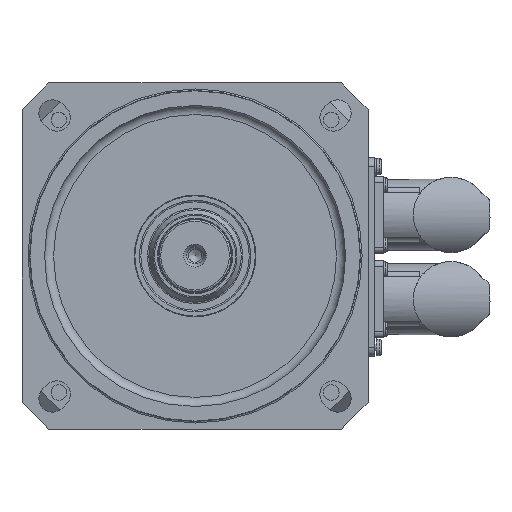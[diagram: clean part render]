
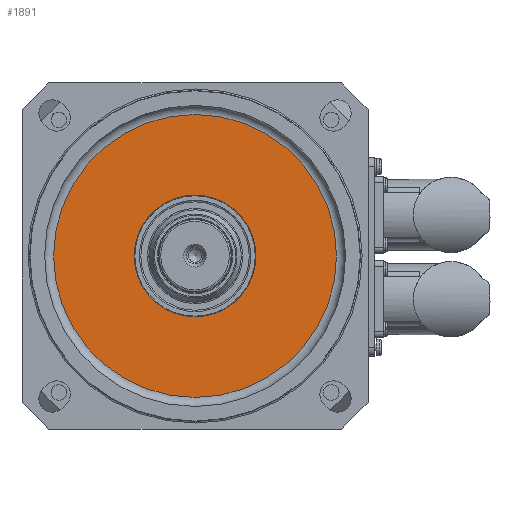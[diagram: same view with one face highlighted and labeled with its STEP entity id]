
A CAD part, top view. The second image highlights one B-rep face of the part: STEP entity #1891.
In plain terms, the highlighted planar face has unit normal (0, 0, 1).
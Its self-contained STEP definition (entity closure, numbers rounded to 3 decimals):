
#1891=ADVANCED_FACE('',(#2752,#4332),#2246,.F.);
#2246=PLANE('',#13736);
#2752=FACE_OUTER_BOUND('',#5257,.T.);
#4332=FACE_BOUND('',#5258,.T.);
#5257=EDGE_LOOP('',(#8127));
#5258=EDGE_LOOP('',(#8128));
#8127=ORIENTED_EDGE('',*,*,#11551,.T.);
#8128=ORIENTED_EDGE('',*,*,#11552,.T.);
#9973=VERTEX_POINT('',#22249);
#9974=VERTEX_POINT('',#22251);
#11551=EDGE_CURVE('',#9973,#9973,#12484,.T.);
#11552=EDGE_CURVE('',#9974,#9974,#12485,.T.);
#12484=CIRCLE('',#13734,47.);
#12485=CIRCLE('',#13735,20.212);
#13734=AXIS2_PLACEMENT_3D('',#22248,#16713,#16714);
#13735=AXIS2_PLACEMENT_3D('',#22250,#16715,#16716);
#13736=AXIS2_PLACEMENT_3D('',#22252,#16717,#16718);
#16713=DIRECTION('',(0.,0.,1.));
#16714=DIRECTION('',(-1.,0.,0.));
#16715=DIRECTION('',(0.,0.,-1.));
#16716=DIRECTION('',(-1.,0.,0.));
#16717=DIRECTION('',(0.,0.,-1.));
#16718=DIRECTION('',(-1.,0.,0.));
#22248=CARTESIAN_POINT('',(0.,0.,31.));
#22249=CARTESIAN_POINT('',(-47.,0.,31.));
#22250=CARTESIAN_POINT('',(0.,0.,31.));
#22251=CARTESIAN_POINT('',(-20.212,0.,31.));
#22252=CARTESIAN_POINT('',(0.,0.,31.));
